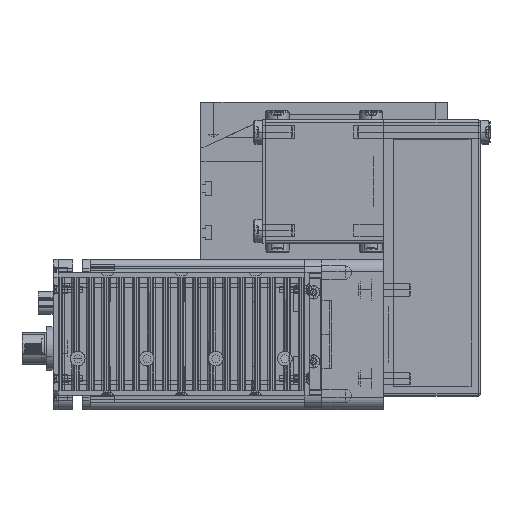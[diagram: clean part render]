
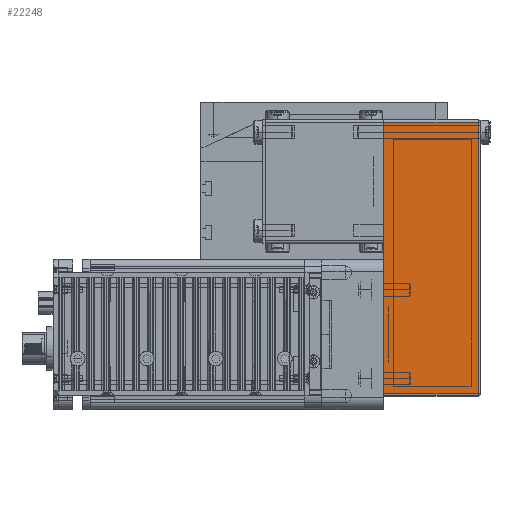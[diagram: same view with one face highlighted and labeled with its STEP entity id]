
A CAD part, top view. The second image highlights one B-rep face of the part: STEP entity #22248.
In plain terms, the highlighted planar face has unit normal (0, 0, 1) as drawn and (0, -1, 0) by its records, which use the part's own axes.
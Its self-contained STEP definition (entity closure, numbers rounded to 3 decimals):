
#18235 = CARTESIAN_POINT ( 'NONE',  ( -49., -25., 38.5 ) ) ;
#18320 = DIRECTION ( 'NONE',  ( 0., 0., 1. ) ) ;
#18321 = VECTOR ( 'NONE', #18320, 1000. ) ;
#18323 = CARTESIAN_POINT ( 'NONE',  ( -49., -25., 39.5 ) ) ;
#18324 = LINE ( 'NONE', #18323, #18321 ) ;
#18350 = CARTESIAN_POINT ( 'NONE',  ( -49., -25., 0. ) ) ;
#18358 = DIRECTION ( 'NONE',  ( 0., 0., -1. ) ) ;
#18359 = VECTOR ( 'NONE', #18358, 1000. ) ;
#18361 = CARTESIAN_POINT ( 'NONE',  ( 61., -25., 39.5 ) ) ;
#18363 = LINE ( 'NONE', #18361, #18359 ) ;
#18431 = CARTESIAN_POINT ( 'NONE',  ( 61., -25., 38.5 ) ) ;
#18491 = CARTESIAN_POINT ( 'NONE',  ( 61., -25., 0. ) ) ;
#18745 = FACE_OUTER_BOUND ( 'NONE', #22293, .T. ) ;
#18759 = AXIS2_PLACEMENT_3D ( 'NONE', #18793, #18792, #18791 ) ;
#18776 = LINE ( 'NONE', #18880, #18878 ) ;
#18791 = DIRECTION ( 'NONE',  ( 0., 0., 1. ) ) ;
#18792 = DIRECTION ( 'NONE',  ( 0., 1., 0. ) ) ;
#18793 = CARTESIAN_POINT ( 'NONE',  ( -50., -25., 39.5 ) ) ;
#18803 = DIRECTION ( 'NONE',  ( 1., 0., 0. ) ) ;
#18805 = VECTOR ( 'NONE', #18803, 1000. ) ;
#18815 = PLANE ( 'NONE',  #18759 ) ;
#18818 = CARTESIAN_POINT ( 'NONE',  ( -50., -25., 38.5 ) ) ;
#18820 = LINE ( 'NONE', #18818, #18805 ) ;
#18877 = DIRECTION ( 'NONE',  ( 1., 0., 0. ) ) ;
#18878 = VECTOR ( 'NONE', #18877, 1000. ) ;
#18880 = CARTESIAN_POINT ( 'NONE',  ( -50., -25., 0. ) ) ;
#22033 = VERTEX_POINT ( 'NONE', #18235 ) ;
#22046 = EDGE_CURVE ( 'NONE', #22055, #22033, #18324, .T. ) ;
#22055 = VERTEX_POINT ( 'NONE', #18350 ) ;
#22093 = EDGE_CURVE ( 'NONE', #22141, #22125, #18363, .T. ) ;
#22125 = VERTEX_POINT ( 'NONE', #18491 ) ;
#22141 = VERTEX_POINT ( 'NONE', #18431 ) ;
#22241 = EDGE_CURVE ( 'NONE', #22033, #22141, #18820, .T. ) ;
#22243 = ORIENTED_EDGE ( 'NONE', *, *, #22093, .F. ) ;
#22245 = ORIENTED_EDGE ( 'NONE', *, *, #22267, .T. ) ;
#22248 = ADVANCED_FACE ( 'NONE', ( #18745 ), #18815, .F. ) ;
#22256 = ORIENTED_EDGE ( 'NONE', *, *, #22241, .F. ) ;
#22267 = EDGE_CURVE ( 'NONE', #22055, #22125, #18776, .T. ) ;
#22269 = ORIENTED_EDGE ( 'NONE', *, *, #22046, .F. ) ;
#22293 = EDGE_LOOP ( 'NONE', ( #22269, #22245, #22243, #22256 ) ) ;
